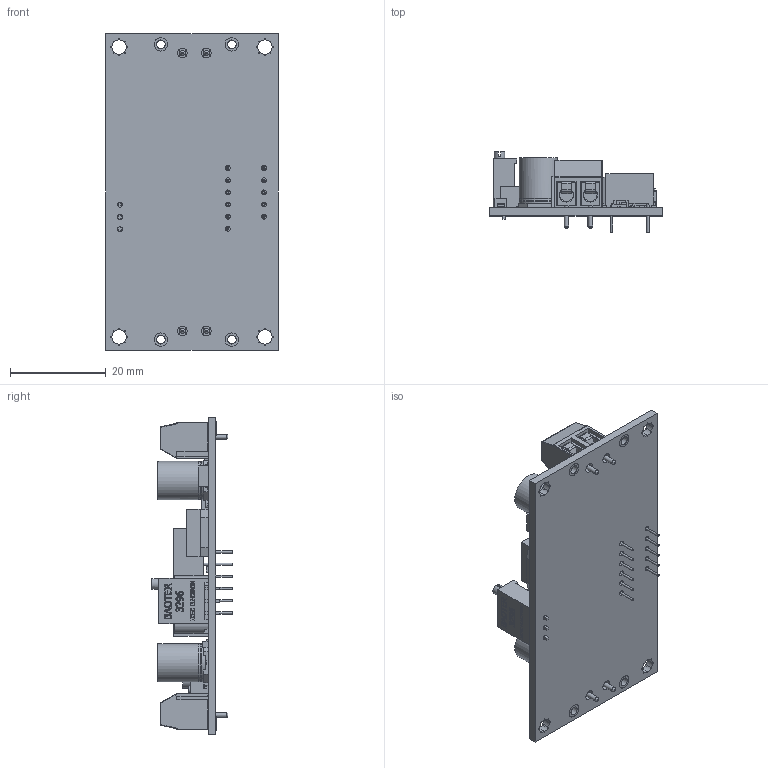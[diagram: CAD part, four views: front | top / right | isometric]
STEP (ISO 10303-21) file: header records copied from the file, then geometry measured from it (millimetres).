
FILE_DESCRIPTION(/* description */ (''),/* implementation_level */ '2;1');
FILE_NAME(/* name */ 'LM2596_Led.stp',/* time_stamp */ '2026-05-01T00:40:47+07:00',/* author */ ('quang'),/* organization */ (''),/* preprocessor_version */ 'ST-DEVELOPER v20',/* originating_system */ 'Autodesk Inventor 2024',/* authorisation */ '');
FILE_SCHEMA (('AUTOMOTIVE_DESIGN { 1 0 10303 214 3 1 1 }'));
Products named in the file (23): LM2596_Led; Board; Resistor (0603); Resistor (0603)_1; Resistor (0603)_2; Resistor (0603)_3; Resistor (0603)_4; Resistor (0603)_5; Capacitor (0805); Capacitor (0805)_1; Capacitor (0805)_2; Led; button; Inductor_470; Diode M7; Diode M7_1; D882; 431; LM2596S; TB5P-2P_P5_L10_W7-6_H10; Capacitor 35V; Baoter_3296; 2381BS-8.3
Assembly tree (32 placements, depth 2):
  LM2596_Led
    Board
    Resistor (0603)  x4
    Resistor (0603)_1
    Resistor (0603)_4  x2
    Resistor (0603)_3  x2
    Resistor (0603)_2
    Resistor (0603)_5  x2
    Capacitor (0805)
    Capacitor (0805)_1  x2
    Capacitor (0805)_2
    Led  x2
    button
    Inductor_470
    Diode M7
    Diode M7_1
    D882
    431
    LM2596S
    TB5P-2P_P5_L10_W7-6_H10  x2
    Capacitor 35V  x2
    Baoter_3296
    2381BS-8.3
Bounding box: 36 x 16.8 x 66 mm (x, y, z)
Volume: 9356.3 mm3; surface area: 11422 mm2
Topology: 50 solids, 50 shells, 4155 faces, 10859 edges, 7188 vertices
Faces by surface type: plane 2664, bspline 1118, cylinder 313, torus 36, sphere 24
Full cylindrical faces by diameter (mm): 0.2 x32, 0.45 x11, 0.9 x3, 1 x22, 1.5 x12, 1.8 x4, 2 x4, 2.2 x1, 2.8 x12, 3 x4, 3.3 x4, 3.5 x5, 3.6 x4, 8 x4, 9.4 x1
Entity records: 113365 total; most frequent: CARTESIAN_POINT 30965, ORIENTED_EDGE 17660, DIRECTION 12813, EDGE_CURVE 8830, LINE 6591, VECTOR 6591, VERTEX_POINT 5861, EDGE_LOOP 3839
